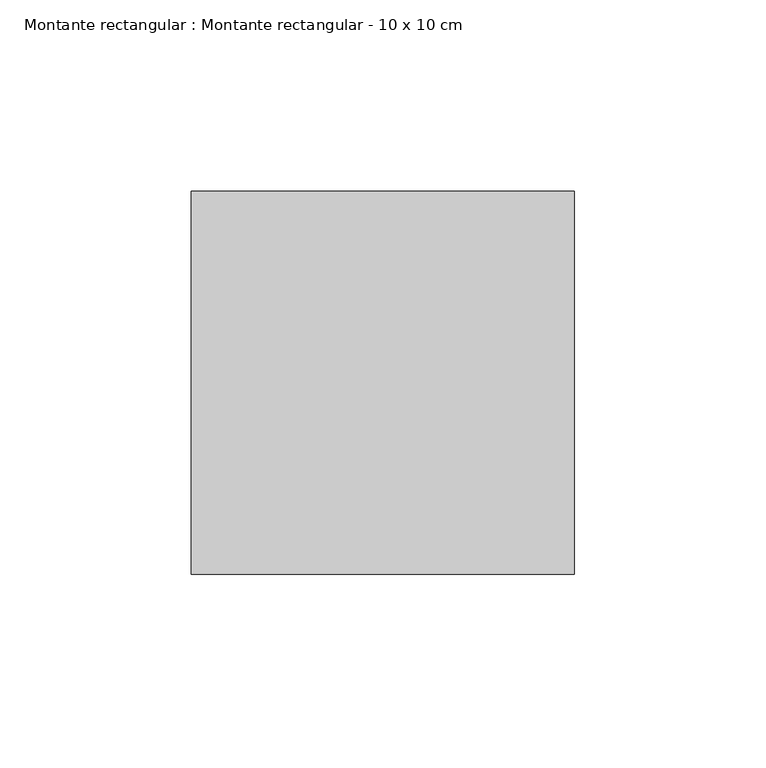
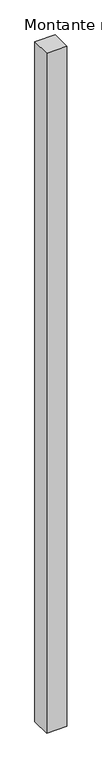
"""IFC4 building model written with IfcOpenShell, lengths in millimetres: member geometry, Montante rectangular : Montante rectangular - 10 x 10 cm."""

from ifc_helpers import new_model, si_unit, frame, origin, place, context, project, spatial, polyline, outline, extrude, source, transform, mapped, element, save


def montante_rectangular_montante_rectangular_10_x_10_cm_1e96bd36(model_context):
    return source(origin(), model_context, "Body", "SweptSolid", [
        extrude(outline(polyline([(0.0, 50.0), (0.0, -50.0), (-100.0, -50.0), (-100.0, 50.0), (0.0, 50.0)])), frame((0.0, 0.0, -3577.9575859), z_axis=(0.0, 0.0, 1.0), x_axis=(1.0, 0.0, 0.0)), (0.0, 0.0, 1.0), 3577.9575859),
    ])


if __name__ == "__main__":
    model = new_model("IFC4")
    model_context = context("Model", 3, world=origin())
    ifc_project = project(units=[si_unit("LENGTHUNIT", "METRE", prefix="MILLI")], contexts=[model_context])
    site = spatial("IfcSite", under=ifc_project)
    building = spatial("IfcBuilding", under=site)
    placement = place(None, origin())
    montante_rectangular_montante_rectangular_10_x_10_cm_shape = montante_rectangular_montante_rectangular_10_x_10_cm_1e96bd36(model_context)
    element("IfcMember", 1, ObjectType="Montante rectangular : Montante rectangular - 10 x 10 cm", at=placement, inside=building, context=model_context, shape_type="MappedRepresentation", body=[
        mapped(montante_rectangular_montante_rectangular_10_x_10_cm_shape, transform((0.0, 0.0, 0.0), x_axis=(1.0, 0.0, 0.0), y_axis=(0.0, 1.0, 0.0), z_axis=(0.0, 0.0, 1.0))),
    ])
    save(model, "model.ifc")
